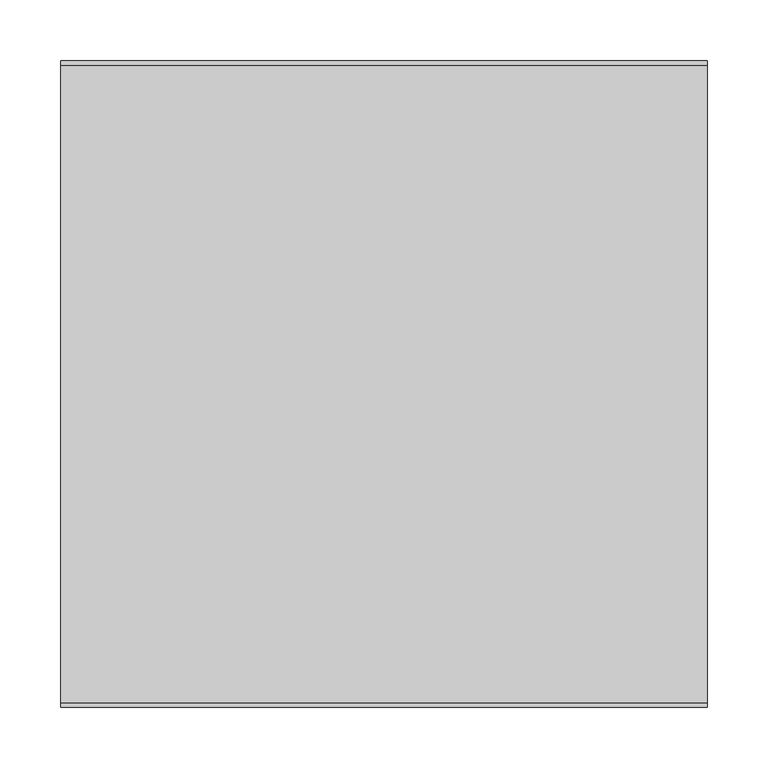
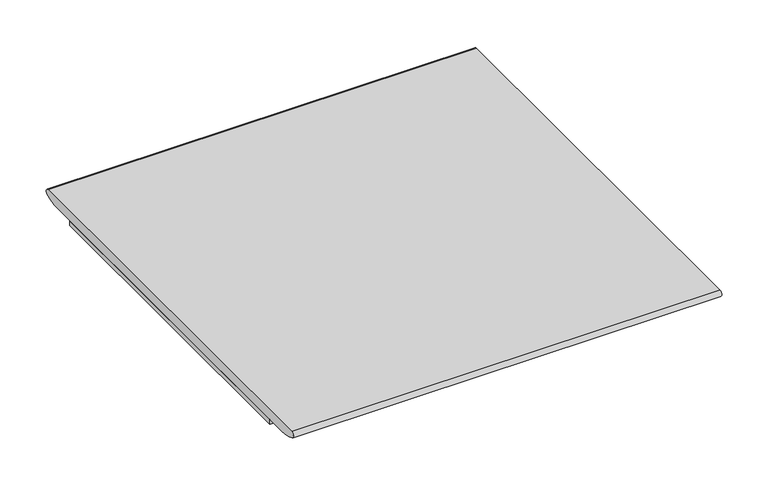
"""IFC4 building model written with IfcOpenShell, lengths in millimetres: furniture geometry, Integra - Coastal Collection - Tide Metal - System Table : Tide - In-Line Table."""

from ifc_helpers import new_model, si_unit, point, frame, frame_2d, origin, place, context, project, spatial, polyline, circle_curve, trimmed, segment, composite_curve, outline, extrude, source, transform, mapped, element, save


def furniture_af0bdf14(model_context):
    return source(origin(), model_context, "Body", "SweptSolid", [
        extrude(outline(composite_curve([segment(trimmed(circle_curve(frame_2d((-262.7380071, 373.6273602)), 3.9619808), [point((-264.4187281, 370.0395379))], [point((-262.7380071, 377.589341))], False, "CARTESIAN"), True, "CONTINUOUS"), segment(polyline([(-262.7380071, 377.589341), (262.7380071, 377.589341)]), True, "CONTINUOUS"), segment(trimmed(circle_curve(frame_2d((262.7380071, 373.6273602)), 3.9619808), [point((262.7380071, 377.589341))], [point((264.4187281, 370.0395379))], False, "CARTESIAN"), True, "CONTINUOUS"), segment(trimmed(circle_curve(frame_2d((241.2840029, 419.4250596)), 54.5357246), [point((264.4187281, 370.0395379))], [point((241.2840029, 364.8893349))], False, "CARTESIAN"), True, "CONTINUOUS"), segment(polyline([(241.2840029, 364.8893349), (-241.2840029, 364.8893349)]), True, "CONTINUOUS"), segment(trimmed(circle_curve(frame_2d((-241.2840029, 419.4250596)), 54.5357246), [point((-241.2840029, 364.8893349))], [point((-264.4187281, 370.0395379))], False, "CARTESIAN"), True, "CONTINUOUS")], self_intersect=False)), frame((0.0, 0.0, 0.0), z_axis=(1.0, 0.0, 0.0), x_axis=(0.0, 1.0, 0.0)), (0.0, 0.0, 1.0), 533.4),
        extrude(outline(polyline([(0.0, 215.8999879), (533.4, 215.8999879), (533.4, -215.8999879), (0.0, -215.8999879), (0.0, 215.8999879)])), frame((0.0, 0.0, 358.5393349), z_axis=(0.0, 0.0, 1.0), x_axis=(1.0, 0.0, 0.0)), (0.0, 0.0, 1.0), 6.35),
    ])


if __name__ == "__main__":
    model = new_model("IFC4")
    model_context = context("Model", 3, world=origin())
    ifc_project = project(units=[si_unit("LENGTHUNIT", "METRE", prefix="MILLI")], contexts=[model_context])
    site = spatial("IfcSite", under=ifc_project)
    building = spatial("IfcBuilding", under=site)
    placement = place(None, origin())
    furniture_shape = furniture_af0bdf14(model_context)
    element("IfcFurniture", 1, ObjectType="Integra - Coastal Collection - Tide Metal - System Table : Tide - In-Line Table", at=placement, inside=building, context=model_context, shape_type="MappedRepresentation", body=[
        mapped(furniture_shape, transform((0.0, 0.0, 0.0), x_axis=(1.0, 0.0, 0.0), y_axis=(0.0, 1.0, 0.0), z_axis=(0.0, 0.0, 1.0))),
    ])
    save(model, "model.ifc")
